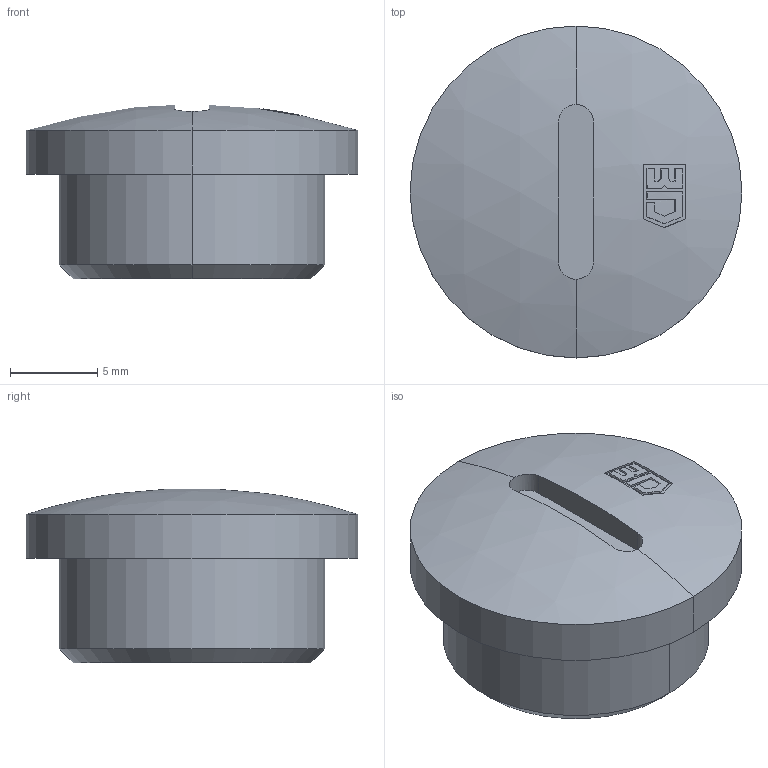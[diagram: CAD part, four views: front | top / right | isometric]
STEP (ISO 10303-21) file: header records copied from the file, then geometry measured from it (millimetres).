
FILE_DESCRIPTION (( 'STEP AP203' ), '1' );
FILE_NAME ('1009 PG.STEP', '2005-11-22T08:05:35', ( ' ' ), ( '' ), 'SwSTEP 2.0', 'SolidWorks 2005278', '' );
FILE_SCHEMA (( 'CONFIG_CONTROL_DESIGN' ));
Length unit declared in the file: millimetre
Products named in the file (1): 1009 PG
Bounding box: 19 x 19 x 9.95 mm (x, y, z)
Volume: 1243.5 mm3; surface area: 1272.2 mm2
Topology: 1 solids, 1 shells, 55 faces, 140 edges, 92 vertices
Faces by surface type: plane 40, cylinder 8, sphere 5, cone 2
Entity records: 1827 total; most frequent: CARTESIAN_POINT 372, DIRECTION 312, ORIENTED_EDGE 280, EDGE_CURVE 140, AXIS2_PLACEMENT_3D 132, VERTEX_POINT 92, CIRCLE 76, EDGE_LOOP 60
